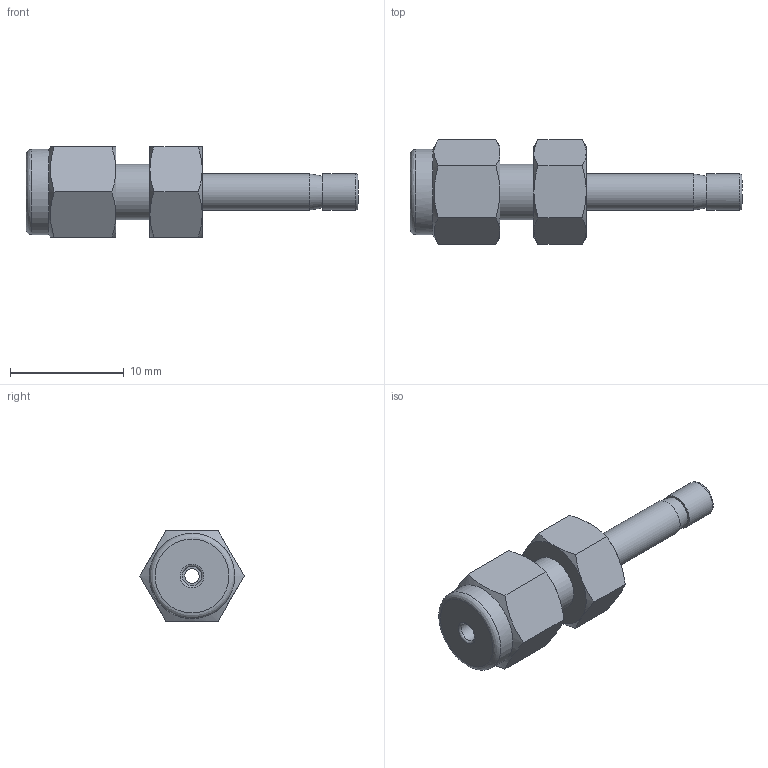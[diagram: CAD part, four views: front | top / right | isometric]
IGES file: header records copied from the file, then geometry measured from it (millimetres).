
Global section: file name: SR-1-2; native system: Autodesk Inventor 2016; preprocessor: unknown; author: DESIGNPC2; date: 20151111.143354; units: millimetre
Bounding box: 29.2 x 9.17 x 7.94 mm (x, y, z)
Volume: 744.8 mm3; surface area: 843.2 mm2
Topology: 1 solids, 1 shells, 50 faces, 124 edges, 81 vertices
Faces by surface type: bspline 50
